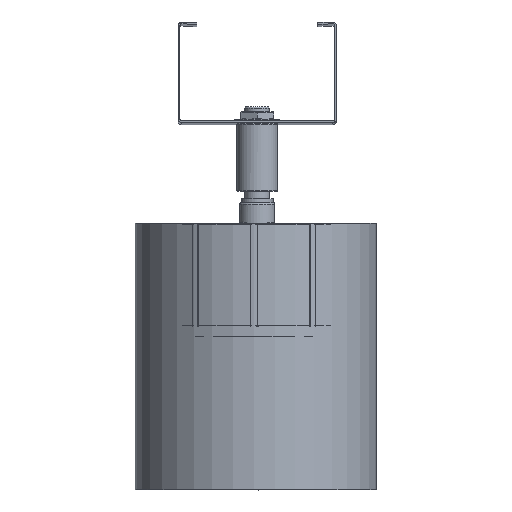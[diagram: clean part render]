
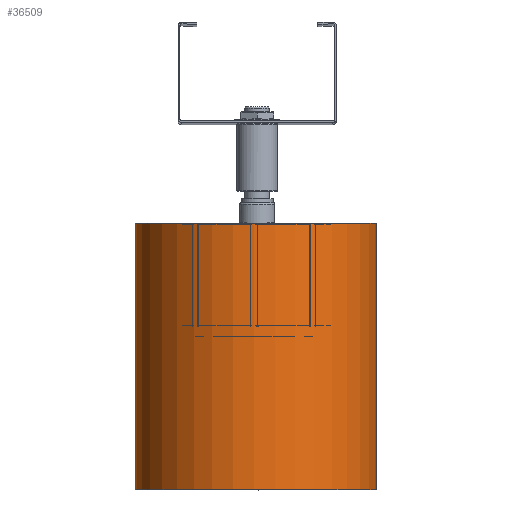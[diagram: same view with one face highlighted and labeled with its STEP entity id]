
A CAD part, top view. The second image highlights one B-rep face of the part: STEP entity #36509.
In plain terms, the highlighted cylindrical face has radius 48.1 mm (diameter 96.2 mm), a full revolution.
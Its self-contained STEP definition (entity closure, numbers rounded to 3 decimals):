
#1773=CYLINDRICAL_SURFACE('',#41044,48.1);
#5031=LINE('',#116971,#6871);
#6871=VECTOR('',#51872,48.1);
#9146=FACE_OUTER_BOUND('',#11472,.T.);
#11472=EDGE_LOOP('',(#33667,#33668,#33669,#33670));
#13030=CIRCLE('',#39510,48.1);
#13906=CIRCLE('',#41045,48.1);
#16364=VERTEX_POINT('',#111974);
#17152=VERTEX_POINT('',#116970);
#21204=EDGE_CURVE('',#16364,#16364,#13030,.T.);
#22666=EDGE_CURVE('',#16364,#17152,#5031,.T.);
#22667=EDGE_CURVE('',#17152,#17152,#13906,.T.);
#33667=ORIENTED_EDGE('',*,*,#21204,.F.);
#33668=ORIENTED_EDGE('',*,*,#22666,.T.);
#33669=ORIENTED_EDGE('',*,*,#22667,.F.);
#33670=ORIENTED_EDGE('',*,*,#22666,.F.);
#36509=ADVANCED_FACE('',(#9146),#1773,.T.);
#39510=AXIS2_PLACEMENT_3D('',#111975,#48320,#48321);
#41044=AXIS2_PLACEMENT_3D('',#116969,#51870,#51871);
#41045=AXIS2_PLACEMENT_3D('',#116972,#51873,#51874);
#48320=DIRECTION('center_axis',(0.,1.,0.));
#48321=DIRECTION('ref_axis',(1.,0.,0.019));
#51870=DIRECTION('center_axis',(0.,1.,0.));
#51871=DIRECTION('ref_axis',(1.,0.,0.019));
#51872=DIRECTION('',(0.,-1.,0.));
#51873=DIRECTION('center_axis',(0.,-1.,0.));
#51874=DIRECTION('ref_axis',(1.,0.,0.019));
#111974=CARTESIAN_POINT('',(-48.607,-39.8,26.076));
#111975=CARTESIAN_POINT('Origin',(-0.516,-39.8,
26.995));
#116969=CARTESIAN_POINT('Origin',(-0.516,-145.8,
26.995));
#116970=CARTESIAN_POINT('',(-48.607,-145.8,26.076));
#116971=CARTESIAN_POINT('',(-48.607,-145.8,26.076));
#116972=CARTESIAN_POINT('Origin',(-0.516,-145.8,
26.995));
